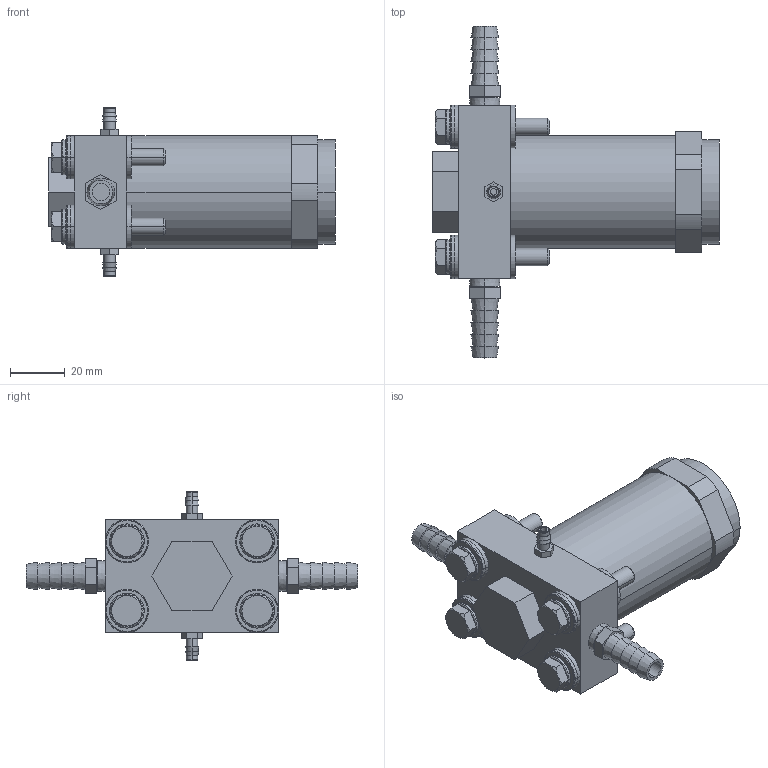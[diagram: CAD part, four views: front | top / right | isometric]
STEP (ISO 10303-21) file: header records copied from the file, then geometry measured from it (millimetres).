
FILE_DESCRIPTION((''),'2;1');
FILE_NAME('XKR4_ASM','2017-08-24T',('jennifer.elliott'),('CenterLine (Windsor) Ltd - Automation Components Division'),'PRO/ENGINEER BY PARAMETRIC TECHNOLOGY CORPORATION, 2015030','PRO/ENGINEER BY PARAMETRIC TECHNOLOGY CORPORATION, 2015030','');
FILE_SCHEMA(('AUTOMOTIVE_DESIGN { 1 0 10303 214 1 1 1 1 }'));
Length unit declared in the file: inch
Products named in the file (31): PRT1535; PRT1536; PRT1537; PRT1538; PRT1539; PRT1540; PRT1541; PRT1542; PRT1543; PRT1544; PRT1545; PRT1546; PRT1547; PRT1548; ASM0020_ASM; PRT1549; PRT1550; PRT1551; PRT1552; PRT1553; PRT1554; PRT1555; PRT1556; PRT1557; PRT1558; PRT1559; PRT1560; PRT1561; PRT1562; PRT1563; XKR4_ASM
Assembly tree (30 placements, depth 3):
  XKR4_ASM
    PRT1535
    PRT1536
    PRT1537
    PRT1538
    PRT1539
    PRT1540
    PRT1541
    PRT1542
    PRT1543
    PRT1544
    ASM0020_ASM
      PRT1545
      PRT1546
      PRT1547
      PRT1548
    PRT1549
    PRT1550
    PRT1551
    PRT1552
    PRT1553
    PRT1554
    PRT1555
    PRT1556
    PRT1557
    PRT1558
    PRT1559
    PRT1560
    PRT1561
    PRT1562
    PRT1563
Bounding box: 104.78 x 121.41 x 61.9 mm (x, y, z)
Volume: 167995.4 mm3; surface area: 48533.5 mm2
Topology: 29 solids, 29 shells, 352 faces, 790 edges, 520 vertices
Faces by surface type: plane 158, cylinder 98, cone 64, torus 32
Entity records: 12266 total; most frequent: CARTESIAN_POINT 2267, DIRECTION 1920, ORIENTED_EDGE 1580, AXIS2_PLACEMENT_3D 801, EDGE_CURVE 790, VERTEX_POINT 520, EDGE_LOOP 408, CIRCLE 384
